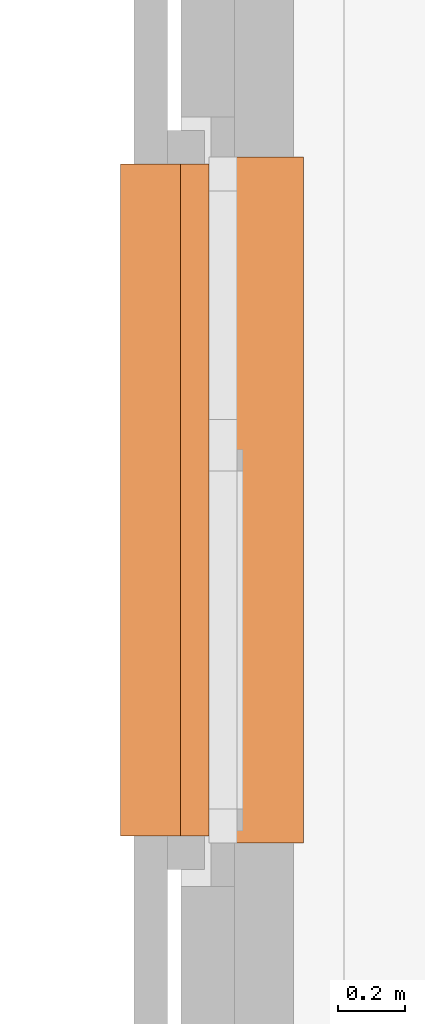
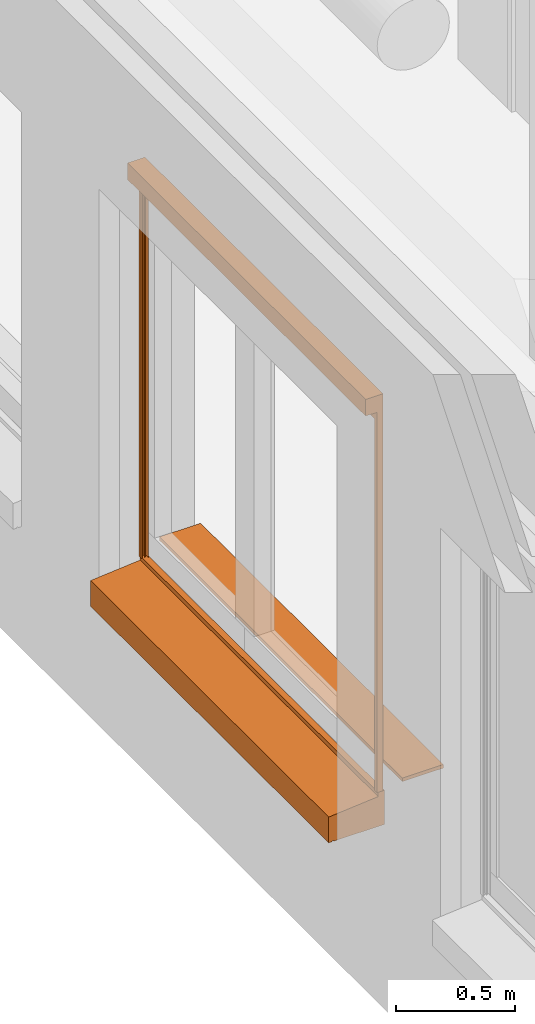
# One storey, part 98 of 128: 3 proxies.
"""IFC2X3 building model written with IfcOpenShell, lengths in millimetres."""

from ifc_helpers import new_model, entity, si_unit, converted_unit, derived_unit, direction, frame, frame_2d, origin, origin_2d_with_axis, place, context, subcontext, project, spatial, polyline, circle_curve, parameter, trimmed, segment, composite_curve, rectangle, outline, extrude, source, transform, mapped, material, material_list, type_object, type_shapes, element, save


model = new_model("IFC2X3")

# Units and contexts
model_context = context("Model", 3, precision=0.01, world=origin(), true_north=direction((6.123031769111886e-17, 1.0)))
body_context = subcontext(model_context, "Body", "Model", "MODEL_VIEW")
ifc_project = project(units=[si_unit("LENGTHUNIT", "METRE", prefix="MILLI"), si_unit("AREAUNIT", "SQUARE_METRE"), si_unit("VOLUMEUNIT", "CUBIC_METRE"), converted_unit("PLANEANGLEUNIT", "DEGREE", entity("IfcRatioMeasure", 0.017453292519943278), si_unit("PLANEANGLEUNIT", "RADIAN"), dimensions=[0, 0, 0, 0, 0, 0, 0]), si_unit("MASSUNIT", "GRAM", prefix="KILO"), derived_unit("MASSDENSITYUNIT", [(si_unit("MASSUNIT", "GRAM", prefix="KILO"), 1), (si_unit("LENGTHUNIT", "METRE"), -3)]), derived_unit("IONCONCENTRATIONUNIT", [(si_unit("MASSUNIT", "GRAM", prefix="KILO"), 1), (si_unit("LENGTHUNIT", "METRE"), -3)]), derived_unit("MOMENTOFINERTIAUNIT", [(si_unit("LENGTHUNIT", "METRE"), 4)]), si_unit("TIMEUNIT", "SECOND"), si_unit("FREQUENCYUNIT", "HERTZ"), si_unit("THERMODYNAMICTEMPERATUREUNIT", "DEGREE_CELSIUS"), derived_unit("THERMALTRANSMITTANCEUNIT", [(si_unit("MASSUNIT", "GRAM", prefix="KILO"), 1), (si_unit("THERMODYNAMICTEMPERATUREUNIT", "KELVIN"), -1), (si_unit("TIMEUNIT", "SECOND"), -3)]), derived_unit("THERMALCONDUCTANCEUNIT", [(si_unit("MASSUNIT", "GRAM", prefix="KILO"), 1), (si_unit("THERMODYNAMICTEMPERATUREUNIT", "KELVIN"), -1), (si_unit("TIMEUNIT", "SECOND"), -3), (si_unit("LENGTHUNIT", "METRE"), 1)]), derived_unit("VOLUMETRICFLOWRATEUNIT", [(si_unit("LENGTHUNIT", "METRE"), 3), (si_unit("TIMEUNIT", "SECOND"), -1)]), derived_unit("MASSFLOWRATEUNIT", [(si_unit("MASSUNIT", "GRAM", prefix="KILO"), 1), (si_unit("TIMEUNIT", "SECOND"), -1)]), derived_unit("ROTATIONALFREQUENCYUNIT", [(si_unit("TIMEUNIT", "SECOND"), -1)]), si_unit("ELECTRICCURRENTUNIT", "AMPERE"), si_unit("ELECTRICVOLTAGEUNIT", "VOLT"), si_unit("POWERUNIT", "WATT"), si_unit("FORCEUNIT", "NEWTON", prefix="KILO"), si_unit("ILLUMINANCEUNIT", "LUX"), si_unit("LUMINOUSFLUXUNIT", "LUMEN"), si_unit("LUMINOUSINTENSITYUNIT", "CANDELA"), derived_unit("USERDEFINED", [(si_unit("MASSUNIT", "GRAM", prefix="KILO"), -1), (si_unit("LENGTHUNIT", "METRE"), -2), (si_unit("TIMEUNIT", "SECOND"), 3), (si_unit("LUMINOUSFLUXUNIT", "LUMEN"), 1)]), derived_unit("USERDEFINED", [(si_unit("MASSUNIT", "GRAM", prefix="KILO"), 1), (si_unit("TIMEUNIT", "SECOND"), -3), (si_unit("LENGTHUNIT", "METRE"), 3), (si_unit("ELECTRICCURRENTUNIT", "AMPERE"), -2)]), derived_unit("SOUNDPOWERUNIT", [(si_unit("MASSUNIT", "GRAM", prefix="KILO"), 1), (si_unit("TIMEUNIT", "SECOND"), -3), (si_unit("LENGTHUNIT", "METRE"), 2)]), derived_unit("SOUNDPRESSUREUNIT", [(si_unit("MASSUNIT", "GRAM", prefix="KILO"), 1), (si_unit("LENGTHUNIT", "METRE"), -1), (si_unit("TIMEUNIT", "SECOND"), -2)]), derived_unit("LINEARVELOCITYUNIT", [(si_unit("LENGTHUNIT", "METRE"), 1), (si_unit("TIMEUNIT", "SECOND"), -1)]), si_unit("PRESSUREUNIT", "PASCAL"), derived_unit("USERDEFINED", [(si_unit("MASSUNIT", "GRAM", prefix="KILO"), 1), (si_unit("LENGTHUNIT", "METRE"), -2), (si_unit("TIMEUNIT", "SECOND"), -2)]), derived_unit("LINEARFORCEUNIT", [(si_unit("MASSUNIT", "GRAM", prefix="KILO"), 1), (si_unit("TIMEUNIT", "SECOND"), -2)]), derived_unit("PLANARFORCEUNIT", [(si_unit("MASSUNIT", "GRAM", prefix="KILO"), 1), (si_unit("LENGTHUNIT", "METRE"), -1), (si_unit("TIMEUNIT", "SECOND"), -2)]), derived_unit("SPECIFICHEATCAPACITYUNIT", [(si_unit("THERMODYNAMICTEMPERATUREUNIT", "KELVIN"), -1), (si_unit("LENGTHUNIT", "METRE"), 2), (si_unit("TIMEUNIT", "SECOND"), -2)]), derived_unit("HEATINGVALUEUNIT", [(si_unit("LENGTHUNIT", "METRE"), 2), (si_unit("TIMEUNIT", "SECOND"), -2)]), derived_unit("VAPORPERMEABILITYUNIT", [(si_unit("LENGTHUNIT", "METRE"), -1), (si_unit("TIMEUNIT", "SECOND"), 1)]), derived_unit("DYNAMICVISCOSITYUNIT", [(si_unit("MASSUNIT", "GRAM", prefix="KILO"), 1), (si_unit("TIMEUNIT", "SECOND"), -1), (si_unit("LENGTHUNIT", "METRE"), -1)]), derived_unit("THERMALEXPANSIONCOEFFICIENTUNIT", [(si_unit("THERMODYNAMICTEMPERATUREUNIT", "KELVIN"), -1)]), derived_unit("MODULUSOFELASTICITYUNIT", [(si_unit("MASSUNIT", "GRAM", prefix="KILO"), 1), (si_unit("LENGTHUNIT", "METRE"), -1), (si_unit("TIMEUNIT", "SECOND"), -2)]), derived_unit("ISOTHERMALMOISTURECAPACITYUNIT", [(si_unit("LENGTHUNIT", "METRE"), 3), (si_unit("MASSUNIT", "GRAM", prefix="KILO"), -1)]), derived_unit("MOISTUREDIFFUSIVITYUNIT", [(si_unit("TIMEUNIT", "SECOND"), -1), (si_unit("LENGTHUNIT", "METRE"), 2)])], contexts=[model_context])

# Site, building, storey
site_placement = place(None, frame((0.0, 300.0, 0.0)))
site = spatial("IfcSite", under=ifc_project, at=site_placement, Name="<Kadastrale nummers>", CompositionType="ELEMENT")
building_placement = place(site_placement, origin())
building = spatial("IfcBuilding", under=site, at=building_placement, CompositionType="ELEMENT")
storey_placement = place(building_placement, frame((0.0, 0.0, 3560.0000331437)))
storey = spatial("IfcBuildingStorey", under=building, at=storey_placement, Name="01 eerste verdieping", CompositionType="ELEMENT", Elevation=3560.0000331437)

# Proxies
ifc_material_1 = material(Name="ISR_Beton_prefab")
building_element_proxy_type_1 = type_object("IfcBuildingElementProxyType", Name="29_DAT_Prefab betonnen waterslag kort:29_DAT_Prefab betonnen waterslag kort", PredefinedType="NOTDEFINED", material=ifc_material_1)
shared_shape_1 = source(origin(), body_context, "Body", "SweptSolid", [
    extrude(outline(composite_curve([segment(polyline([(-137.5, -95.62465990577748), (-107.49999999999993, -95.62465990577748)]), True, "CONTINUOUS"), segment(polyline([(-107.49999999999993, -95.62465990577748), (-107.49999999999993, -73.62465990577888)]), True, "CONTINUOUS"), segment(polyline([(-107.49999999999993, -73.62465990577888), (132.50000000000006, -52.627380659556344)]), True, "CONTINUOUS"), segment(polyline([(132.5, -52.627380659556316), (132.5, 79.37534009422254)]), True, "CONTINUOUS"), segment(polyline([(132.5, 79.37534009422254), (117.49999999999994, 79.37534009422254)]), True, "CONTINUOUS"), segment(trimmed(circle_curve(frame_2d((112.49999999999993, 79.37534009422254), x_axis=(1.0, 0.0)), 5.000000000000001), [parameter(179.99999999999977)], [parameter(359.9999999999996)], True, "PARAMETER"), False, "CONTINUOUS"), segment(polyline([(107.49999999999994, 79.37534009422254), (-137.5, 79.37534009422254)]), True, "CONTINUOUS"), segment(polyline([(-137.5, 79.37534009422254), (-137.5, -95.62465990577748)]), True, "CONTINUOUS")], self_intersect=False)), frame((0.0, 82.50000000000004, -95.62465990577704), z_axis=(1.0, 0.0, 0.0), x_axis=(0.0, -1.0, 0.0)), (0.0, 0.0, 1.0), 2000.0000000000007),
])
type_shapes(building_element_proxy_type_1, [shared_shape_1])
proxy_1_placement = place(storey_placement, frame((36235.0, 13580.0, 890.000001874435), z_axis=(0.0, 0.0, 1.0), x_axis=(0.0, -1.0, 0.0)))
element("IfcBuildingElementProxy", 1, at=proxy_1_placement, inside=storey, type_object=building_element_proxy_type_1, material=ifc_material_1, Name="29_DAT_Prefab betonnen waterslag kort:29_DAT_Prefab betonnen waterslag kort", ObjectType="29_DAT_Prefab betonnen waterslag kort:29_DAT_Prefab betonnen waterslag kort", context=body_context, shape_type="MappedRepresentation", body=[
    mapped(shared_shape_1, transform((0.0, 0.0, 0.0), scale=1.0)),
])
ifc_material_2 = material(Name="STAAL_RAL 7006")
ifc_material_3 = material(Name="<Unnamed>")
ifc_material_list = material_list([ifc_material_2, ifc_material_3])
building_element_proxy_type_2 = type_object("IfcBuildingElementProxyType", Name="31_DAT_Screen_zonwering_bak85:31_DAT_Screen_zonwering_bak85", PredefinedType="NOTDEFINED", material=ifc_material_list)
shared_shape_2 = source(origin(), body_context, "Body", "SweptSolid", [
    extrude(outline(polyline([(-60.69864841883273, -53.573897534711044), (20.695945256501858, -53.573897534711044), (20.695945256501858, 1.1216926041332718), (22.501351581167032, 1.1216926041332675), (22.501351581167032, 24.626102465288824), (17.501351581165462, 24.626102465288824), (17.501351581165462, 27.826102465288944), (-60.69864841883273, 27.826102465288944), (-60.69864841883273, -53.573897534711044)])), frame((1998.0, -29.62610246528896, 2422.501351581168), z_axis=(1.0, 0.0, 0.0), x_axis=(0.0, 0.0, -1.0)), (0.0, 0.0, 1.0), 1.9999999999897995),
    extrude(outline(polyline([(-55.83243227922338, -51.08259835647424), (29.167567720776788, -51.08259835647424), (29.167567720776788, 5.412991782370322), (27.362161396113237, 5.412991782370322), (27.362161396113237, -49.28259835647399), (-54.032432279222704, -49.28259835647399), (-54.032432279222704, 32.117401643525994), (24.16756772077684, 32.117401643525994), (24.16756772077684, 28.91740164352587), (29.167567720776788, 28.91740164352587), (29.167567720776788, 33.917401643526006), (-55.83243227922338, 33.917401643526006), (-55.83243227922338, -51.08259835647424)])), frame((0.0, -33.917401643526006, 2429.1675677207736), z_axis=(1.0, 0.0, 0.0), x_axis=(0.0, 0.0, -1.0)), (0.0, 0.0, 1.0), 1999.999999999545),
    extrude(outline(polyline([(-60.69864841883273, -53.573897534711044), (20.695945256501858, -53.573897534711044), (20.695945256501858, 1.1216926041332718), (22.501351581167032, 1.1216926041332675), (22.501351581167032, 24.626102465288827), (17.501351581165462, 24.626102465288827), (17.501351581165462, 27.826102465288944), (-60.69864841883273, 27.826102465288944), (-60.69864841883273, -53.573897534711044)])), frame((0.0, -29.62610246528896, 2422.501351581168), z_axis=(1.0, 0.0, 0.0), x_axis=(0.0, 0.0, -1.0)), (0.0, 0.0, 1.0), 1.999999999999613),
    extrude(rectangle(XDim=1959.9999999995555, YDim=1.163311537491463, at=frame_2d((0.0, -2.1094237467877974e-15), x_axis=(1.0, 0.0))), frame((1000.0, -20.037293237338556, 2382.3606486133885)), (0.0, 0.0, 1.0), 17.639351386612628),
    extrude(outline(composite_curve([segment(polyline([(-7.5023279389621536, -23.023758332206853), (7.4976720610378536, -23.023758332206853)]), True, "CONTINUOUS"), segment(trimmed(circle_curve(frame_2d((7.49767206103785, -21.523758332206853), x_axis=(0.0, -1.0)), 1.4999999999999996), [parameter(359.99999999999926)], [parameter(90.00000000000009)], True, "PARAMETER"), True, "CONTINUOUS"), segment(polyline([(8.997672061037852, -21.523758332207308), (8.997672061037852, 8.976241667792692)]), True, "CONTINUOUS"), segment(trimmed(circle_curve(frame_2d((5.9976720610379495, 8.976241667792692), x_axis=(0.0, -1.0)), 3.0), [parameter(90.00000000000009)], [parameter(172.84454900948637)], True, "PARAMETER"), True, "CONTINUOUS"), segment(polyline([(6.3713574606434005, 11.952877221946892), (2.2320908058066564, 12.470504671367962)]), True, "CONTINUOUS"), segment(trimmed(circle_curve(frame_2d((2.1399803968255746, 11.733933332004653), x_axis=(0.0, -1.0)), 0.7423083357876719), [parameter(172.87199730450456)], [parameter(323.5235343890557)], True, "PARAMETER"), True, "CONTINUOUS"), segment(trimmed(circle_curve(frame_2d((-0.002327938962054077, 8.976241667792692), x_axis=(0.0, -1.0)), 2.75), [parameter(217.47327986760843)], [parameter(141.78969998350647)], True, "PARAMETER"), False, "CONTINUOUS"), segment(trimmed(circle_curve(frame_2d((-2.1446362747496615, 11.733933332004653), x_axis=(0.0, -1.0)), 0.7423083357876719), [parameter(39.207114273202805)], [parameter(187.12800269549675)], True, "PARAMETER"), True, "CONTINUOUS"), segment(polyline([(-2.2367466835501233, 12.470504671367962), (-6.376013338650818, 11.952877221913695)]), True, "CONTINUOUS"), segment(trimmed(circle_curve(frame_2d((-6.002327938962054, 8.976241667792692), x_axis=(0.0, -1.0)), 3.0), [parameter(187.1554509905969)], [parameter(269.9999999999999)], True, "PARAMETER"), True, "CONTINUOUS"), segment(polyline([(-9.002327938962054, 8.976241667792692), (-9.002327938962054, -21.523758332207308)]), True, "CONTINUOUS"), segment(trimmed(circle_curve(frame_2d((-7.50232793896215, -21.523758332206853), x_axis=(0.0, -1.0)), 1.5000000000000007), [parameter(269.9999999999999)], [parameter(359.9999999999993)], True, "PARAMETER"), True, "CONTINUOUS")], self_intersect=False)), frame((20.0, -19.997672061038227, 2375.3844069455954), z_axis=(1.0, 0.0, 0.0), x_axis=(0.0, 1.0, 0.0)), (0.0, 0.0, 1.0), 1959.999999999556),
    extrude(outline(polyline([(-14.638298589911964, -16.231574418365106), (-13.138298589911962, -16.231574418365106), (-13.138298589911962, 12.23272922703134), (-6.116685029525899, 12.23272922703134), (-6.116685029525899, -6.231574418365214), (-1.116685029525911, -6.231574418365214), (-1.116685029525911, -4.769580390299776), (-4.579546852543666, -4.769580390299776), (-4.579546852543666, 12.23272922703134), (13.86611127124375, 12.23272922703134), (13.86611127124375, -4.769580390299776), (10.36170141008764, -4.769580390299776), (10.36170141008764, -6.2315744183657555), (15.36170141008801, -6.2315744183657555), (15.36170141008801, 13.7684255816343), (-14.638298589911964, 13.7684255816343), (-14.638298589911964, -16.231574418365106)])), frame((1986.2315744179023, -14.638298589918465, 450.0), z_axis=(0.0, 0.0, 1.0), x_axis=(0.0, -1.0, 0.0)), (0.0, 0.0, 1.0), 1950.0000000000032),
    extrude(outline(polyline([(-16.231574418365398, -14.638298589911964), (13.768425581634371, -14.638298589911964), (13.76842558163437, 15.361701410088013), (-6.231574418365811, 15.361701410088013), (-6.231574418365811, 10.361701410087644), (-4.769580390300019, 10.361701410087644), (-4.769580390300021, 13.866111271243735), (12.2327292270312, 13.866111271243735), (12.2327292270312, -4.57954685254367), (-4.769580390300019, -4.57954685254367), (-4.769580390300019, -1.1166850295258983), (-6.231574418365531, -1.1166850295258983), (-6.231574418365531, -6.116685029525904), (12.232729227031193, -6.116685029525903), (12.232729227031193, -13.138298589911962), (-16.231574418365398, -13.138298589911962), (-16.231574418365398, -14.638298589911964)])), frame((13.768425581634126, -14.638298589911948, 450.0), z_axis=(0.0, 0.0, 1.0), x_axis=(-1.0, 0.0, 0.0)), (0.0, 0.0, 1.0), 1950.0000000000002),
])
type_shapes(building_element_proxy_type_2, [shared_shape_2])
proxy_2_placement = place(storey_placement, frame((36448.998623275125, 13580.0, 440.0000018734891), z_axis=(0.0, 0.0, 1.0), x_axis=(0.0, -1.0, 0.0)))
element("IfcBuildingElementProxy", 2, at=proxy_2_placement, inside=storey, type_object=building_element_proxy_type_2, material=ifc_material_list, Name="31_DAT_Screen_zonwering_bak85:31_DAT_Screen_zonwering_bak85", ObjectType="31_DAT_Screen_zonwering_bak85:31_DAT_Screen_zonwering_bak85", context=body_context, shape_type="MappedRepresentation", body=[
    mapped(shared_shape_2, transform((0.0, 0.0, 0.0), scale=1.0)),
])
ifc_material_4 = material(Name="e1_natuursteen")
building_element_proxy_type_3 = type_object("IfcBuildingElementProxyType", Name="NLRS_31_GM_WPB_vensterbank natuursteen -SH_gen_ASN:200x18", PredefinedType="USERDEFINED", material=ifc_material_4)
shared_shape_3 = source(origin(), body_context, "Body", "SweptSolid", [
    extrude(rectangle(XDim=200.0, YDim=2040.0000000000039, at=origin_2d_with_axis()), frame((0.0, -100.0, 0.0), z_axis=(0.0, 0.0, 1.0), x_axis=(0.0, -1.0, 0.0)), (0.0, 0.0, 1.0), 17.999999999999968),
])
type_shapes(building_element_proxy_type_3, [shared_shape_3])
proxy_3_placement = place(storey_placement, frame((36530.0, 12580.0, 920.0000018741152), z_axis=(0.0, 0.0, 1.0), x_axis=(0.0, 1.0, 0.0)))
element("IfcBuildingElementProxy", 3, at=proxy_3_placement, inside=storey, type_object=building_element_proxy_type_3, material=ifc_material_4, Name="NLRS_31_GM_WPB_vensterbank natuursteen -SH_gen_ASN:200x18", ObjectType="NLRS_31_GM_WPB_vensterbank natuursteen -SH_gen_ASN:200x18", context=body_context, shape_type="MappedRepresentation", body=[
    mapped(shared_shape_3, transform((0.0, 0.0, 0.0), scale=1.0)),
])

save(model, "model.ifc")
